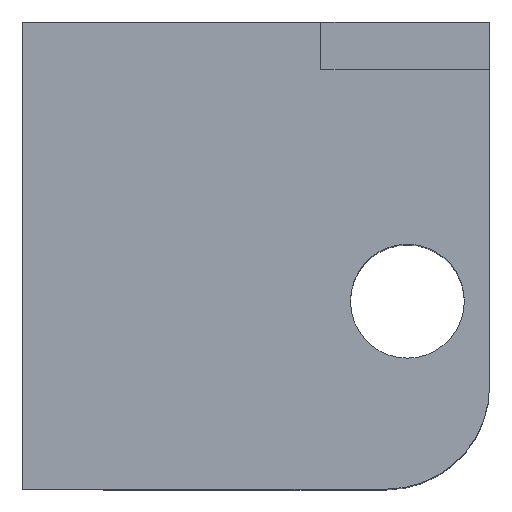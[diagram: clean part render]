
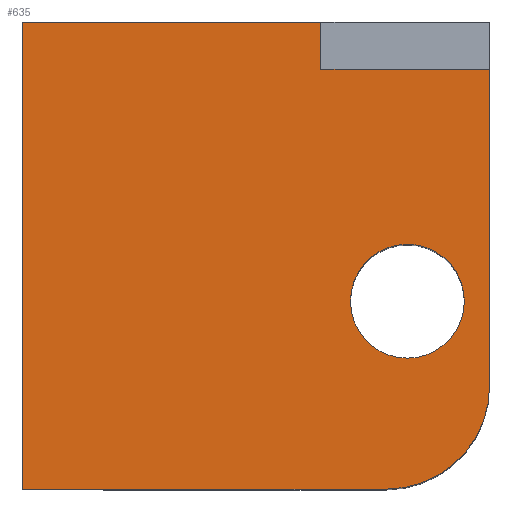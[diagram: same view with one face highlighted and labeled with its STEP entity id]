
A CAD part, top view. The second image highlights one B-rep face of the part: STEP entity #635.
In plain terms, the highlighted planar face has unit normal (0, 0, 1).
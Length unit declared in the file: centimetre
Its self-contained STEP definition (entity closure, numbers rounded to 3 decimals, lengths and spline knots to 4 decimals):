
#34 = CARTESIAN_POINT ( 'NONE',  ( 945.9662, 402.3462, 1000. ) ) ;
#37 = FACE_OUTER_BOUND ( 'NONE', #343, .T. ) ;
#39 = AXIS2_PLACEMENT_3D ( 'NONE', #77, #364, #405 ) ;
#40 = DIRECTION ( 'NONE',  ( 1., 0., 0. ) ) ;
#54 = EDGE_LOOP ( 'NONE', ( #326, #162 ) ) ;
#58 = VERTEX_POINT ( 'NONE', #672 ) ;
#60 = AXIS2_PLACEMENT_3D ( 'NONE', #312, #583, #203 ) ;
#64 = ORIENTED_EDGE ( 'NONE', *, *, #69, .F. ) ;
#69 = EDGE_CURVE ( 'NONE', #333, #58, #442, .T. ) ;
#75 = CARTESIAN_POINT ( 'NONE',  ( 0., 1000., 1000. ) ) ;
#77 = CARTESIAN_POINT ( 'NONE',  ( 824.0734, 402.3462, 1000. ) ) ;
#81 = LINE ( 'NONE', #527, #665 ) ;
#83 = VECTOR ( 'NONE', #388, 100. ) ;
#89 = CARTESIAN_POINT ( 'NONE',  ( 778.6918, 221.3082, 1000. ) ) ;
#95 = CIRCLE ( 'NONE', #225, 121.8927 ) ;
#99 = ORIENTED_EDGE ( 'NONE', *, *, #717, .T. ) ;
#102 = ORIENTED_EDGE ( 'NONE', *, *, #224, .T. ) ;
#110 = EDGE_CURVE ( 'NONE', #169, #553, #609, .T. ) ;
#122 = DIRECTION ( 'NONE',  ( 0., -1., 0. ) ) ;
#124 = EDGE_CURVE ( 'NONE', #333, #238, #227, .T. ) ;
#125 = VERTEX_POINT ( 'NONE', #180 ) ;
#126 = DIRECTION ( 'NONE',  ( -1., 0., 0. ) ) ;
#129 = VECTOR ( 'NONE', #122, 100. ) ;
#130 = CARTESIAN_POINT ( 'NONE',  ( 0., 1000., 1000. ) ) ;
#131 = CARTESIAN_POINT ( 'NONE',  ( 1000., 221.3082, 1000. ) ) ;
#136 = FACE_BOUND ( 'NONE', #54, .T. ) ;
#153 = EDGE_CURVE ( 'NONE', #670, #570, #330, .T. ) ;
#159 = CARTESIAN_POINT ( 'NONE',  ( 639.0223, 898.7179, 1000. ) ) ;
#162 = ORIENTED_EDGE ( 'NONE', *, *, #545, .F. ) ;
#169 = VERTEX_POINT ( 'NONE', #361 ) ;
#180 = CARTESIAN_POINT ( 'NONE',  ( 1000., 898.7179, 1000. ) ) ;
#203 = DIRECTION ( 'NONE',  ( 1., 0., 0. ) ) ;
#204 = CIRCLE ( 'NONE', #487, 221.3082 ) ;
#205 = DIRECTION ( 'NONE',  ( 1., 0., 0. ) ) ;
#206 = DIRECTION ( 'NONE',  ( 0., 0., 1. ) ) ;
#219 = CARTESIAN_POINT ( 'NONE',  ( 0., 0., 1000. ) ) ;
#224 = EDGE_CURVE ( 'NONE', #238, #169, #629, .T. ) ;
#225 = AXIS2_PLACEMENT_3D ( 'NONE', #709, #488, #205 ) ;
#227 = LINE ( 'NONE', #694, #663 ) ;
#238 = VERTEX_POINT ( 'NONE', #75 ) ;
#291 = ORIENTED_EDGE ( 'NONE', *, *, #698, .F. ) ;
#312 = CARTESIAN_POINT ( 'NONE',  ( 0., 0., 1000. ) ) ;
#316 = DIRECTION ( 'NONE',  ( 1., 0., 0. ) ) ;
#323 = CARTESIAN_POINT ( 'NONE',  ( 639.0223, 1000., 1000. ) ) ;
#326 = ORIENTED_EDGE ( 'NONE', *, *, #153, .F. ) ;
#330 = CIRCLE ( 'NONE', #39, 121.8927 ) ;
#333 = VERTEX_POINT ( 'NONE', #323 ) ;
#343 = EDGE_LOOP ( 'NONE', ( #291, #64, #603, #102, #512, #99, #511 ) ) ;
#361 = CARTESIAN_POINT ( 'NONE',  ( 0., 0., 1000. ) ) ;
#364 = DIRECTION ( 'NONE',  ( 0., 0., 1. ) ) ;
#374 = VECTOR ( 'NONE', #577, 100. ) ;
#388 = DIRECTION ( 'NONE',  ( 1., 0., 0. ) ) ;
#405 = DIRECTION ( 'NONE',  ( 1., 0., 0. ) ) ;
#434 = CARTESIAN_POINT ( 'NONE',  ( 702.1807, 402.3462, 1000. ) ) ;
#442 = LINE ( 'NONE', #159, #129 ) ;
#472 = EDGE_CURVE ( 'NONE', #503, #125, #81, .T. ) ;
#487 = AXIS2_PLACEMENT_3D ( 'NONE', #89, #206, #316 ) ;
#488 = DIRECTION ( 'NONE',  ( 0., 0., 1. ) ) ;
#503 = VERTEX_POINT ( 'NONE', #131 ) ;
#511 = ORIENTED_EDGE ( 'NONE', *, *, #472, .T. ) ;
#512 = ORIENTED_EDGE ( 'NONE', *, *, #110, .T. ) ;
#527 = CARTESIAN_POINT ( 'NONE',  ( 1000., 1000., 1000. ) ) ;
#541 = LINE ( 'NONE', #645, #554 ) ;
#545 = EDGE_CURVE ( 'NONE', #570, #670, #95, .T. ) ;
#553 = VERTEX_POINT ( 'NONE', #592 ) ;
#554 = VECTOR ( 'NONE', #40, 100. ) ;
#570 = VERTEX_POINT ( 'NONE', #434 ) ;
#577 = DIRECTION ( 'NONE',  ( 0., -1., 0. ) ) ;
#583 = DIRECTION ( 'NONE',  ( 0., 0., 1. ) ) ;
#588 = PLANE ( 'NONE',  #60 ) ;
#592 = CARTESIAN_POINT ( 'NONE',  ( 778.6918, 0., 1000. ) ) ;
#603 = ORIENTED_EDGE ( 'NONE', *, *, #124, .T. ) ;
#609 = LINE ( 'NONE', #219, #83 ) ;
#629 = LINE ( 'NONE', #130, #374 ) ;
#635 = ADVANCED_FACE ( 'NONE', ( #37, #136 ), #588, .T. ) ;
#645 = CARTESIAN_POINT ( 'NONE',  ( 639.0223, 898.7179, 1000. ) ) ;
#663 = VECTOR ( 'NONE', #126, 100. ) ;
#665 = VECTOR ( 'NONE', #687, 100. ) ;
#670 = VERTEX_POINT ( 'NONE', #34 ) ;
#672 = CARTESIAN_POINT ( 'NONE',  ( 639.0223, 898.7179, 1000. ) ) ;
#687 = DIRECTION ( 'NONE',  ( 0., 1., 0. ) ) ;
#694 = CARTESIAN_POINT ( 'NONE',  ( 0., 1000., 1000. ) ) ;
#698 = EDGE_CURVE ( 'NONE', #58, #125, #541, .T. ) ;
#709 = CARTESIAN_POINT ( 'NONE',  ( 824.0734, 402.3462, 1000. ) ) ;
#717 = EDGE_CURVE ( 'NONE', #553, #503, #204, .T. ) ;
